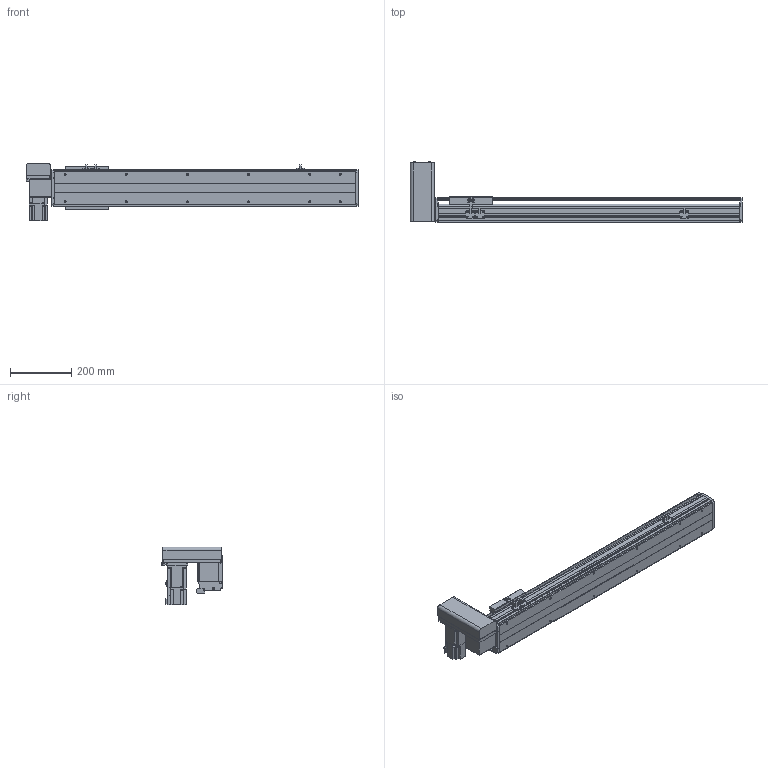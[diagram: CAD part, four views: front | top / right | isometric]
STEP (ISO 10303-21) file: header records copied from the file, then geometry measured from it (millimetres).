
FILE_DESCRIPTION( ( 'STEP AP214' ), '1' );
FILE_NAME( 'x:/temp/worker_27/temp/exporttempdir_6708_228_1RnGR/format_0/PBS120-P40-S700-RU-T40-C1-N(0).stp', '2022-06-06T00:49:09', ( 'License CC BY-ND 4.0' ), ( 'CADENAS' ), ' ', 'PARTsolutions', ' ' );
FILE_SCHEMA( ( 'AUTOMOTIVE_DESIGN { 1 0 10303 214 1 1 1 1 }' ) );
Length unit declared in the file: millimetre
Products named in the file (7): PBS120-P40-S700-RU-T40-C1-N(0); _PBS120-S700()_body; _PBS120T-RU_motors; _T40-p1; _PBS120_sliser; _PBS120_plant; _PBS120_sensor
Assembly tree (8 placements, depth 2):
  PBS120-P40-S700-RU-T40-C1-N(0)
    _PBS120-S700()_body
    _PBS120T-RU_motors
    _T40-p1
    _PBS120_sliser
    _PBS120_plant
    _PBS120_sensor  x3
Bounding box: 1086 x 198 x 189.7 mm (x, y, z)
Volume: 4984705 mm3; surface area: 948371.7 mm2
Topology: 8 solids, 8 shells, 816 faces, 2136 edges, 1375 vertices
Faces by surface type: plane 545, cylinder 225, cone 44, torus 2
Full cylindrical faces by diameter (mm): 2.459 x6, 3.242 x4, 4 x2, 4.134 x4, 4.5 x10, 4.917 x16, 5.5 x11, 6 x2, 6.6 x1, 7 x2, 8.5 x4, 9 x4, 12 x1, 14 x1, 30 x2, 40 x1, 50 x2
Entity records: 26988 total; most frequent: DIRECTION 3692, CARTESIAN_POINT 3641, ORIENTED_EDGE 3478, EDGE_CURVE 1739, AXIS2_PLACEMENT_3D 1232, LINE 1228, VECTOR 1228, VERTEX_POINT 1181
